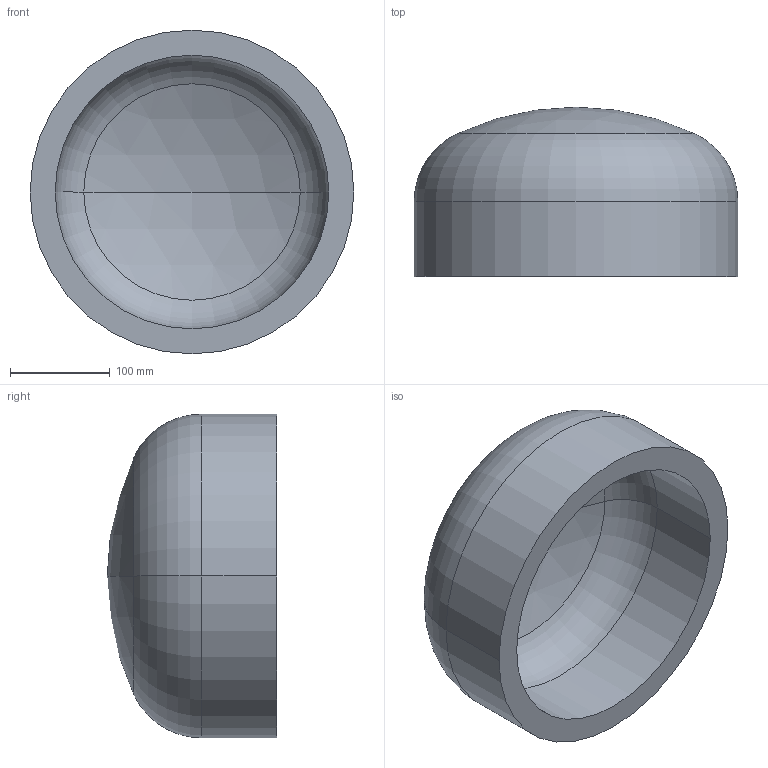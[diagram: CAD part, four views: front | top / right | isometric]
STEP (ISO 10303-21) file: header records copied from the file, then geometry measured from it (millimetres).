
FILE_DESCRIPTION (( 'STEP AP203' ), '1' );
FILE_NAME ('DIN 28013 Korbbogenform_-_Boden DIN 28013 - 323,9 x 75 - I - s=25.step', '2016-07-01T07:44:58', ( '' ), ( '' ), 'SwSTEP 2.0', 'SolidWorks 2013', '' );
FILE_SCHEMA (( 'CONFIG_CONTROL_DESIGN' ));
Length unit declared in the file: millimetre
Products named in the file (1): DIN 28013 Korbbogenform_-_Boden DIN 28013 - 323,9 x 75 - I - s=25
Bounding box: 323.9 x 169.46 x 323.9 mm (x, y, z)
Volume: 4353031.6 mm3; surface area: 373027 mm2
Topology: 1 solids, 1 shells, 13 faces, 24 edges, 14 vertices
Faces by surface type: torus 4, cylinder 4, sphere 4, plane 1
Entity records: 407 total; most frequent: DIRECTION 72, CARTESIAN_POINT 52, ORIENTED_EDGE 48, AXIS2_PLACEMENT_3D 34, EDGE_CURVE 24, CIRCLE 20, EDGE_LOOP 14, VERTEX_POINT 14
